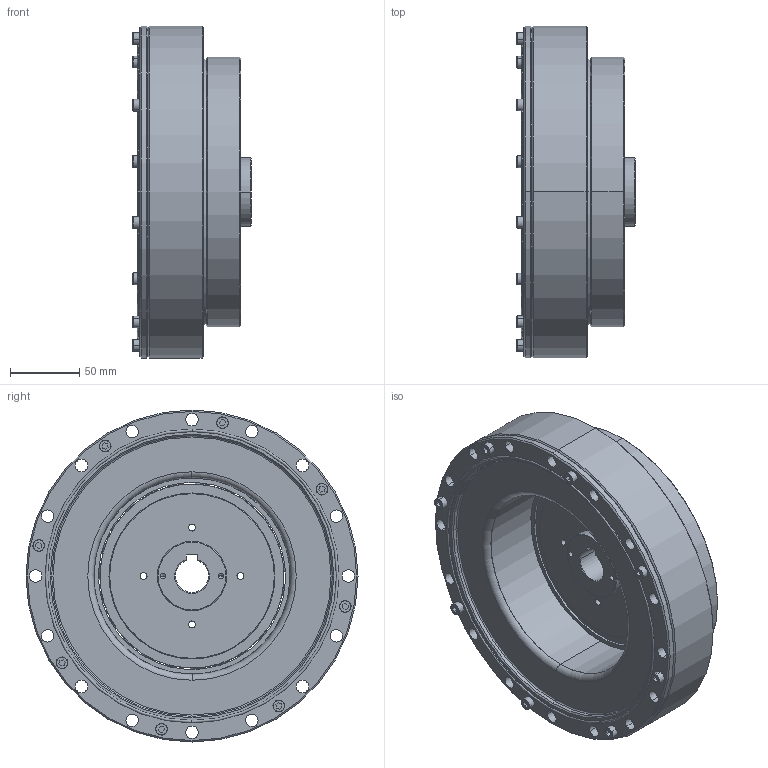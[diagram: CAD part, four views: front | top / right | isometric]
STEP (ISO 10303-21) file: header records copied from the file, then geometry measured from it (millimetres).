
FILE_DESCRIPTION (( 'STEP AP203' ), '1' );
FILE_NAME ('FHG-58-XXX-SJ.STEP', '2023-01-17T06:56:47', ( '微软用户' ), ( '微软中国' ), 'SwSTEP 2.0', 'SolidWorks 2016', '' );
FILE_SCHEMA (( 'CONFIG_CONTROL_DESIGN' ));
Length unit declared in the file: millimetre
Products named in the file (1): FHG-58-XXX-SJ
Bounding box: 85.5 x 240 x 240 mm (x, y, z)
Volume: 1659784.2 mm3; surface area: 539895.3 mm2
Topology: 49 solids, 49 shells, 902 faces, 2192 edges, 1357 vertices
Faces by surface type: cylinder 396, plane 214, cone 154, torus 92, sphere 46
Entity records: 25758 total; most frequent: DIRECTION 5023, CARTESIAN_POINT 4224, ORIENTED_EDGE 4042, AXIS2_PLACEMENT_3D 2103, EDGE_CURVE 2021, VERTEX_POINT 1288, CIRCLE 1200, EDGE_LOOP 1119
